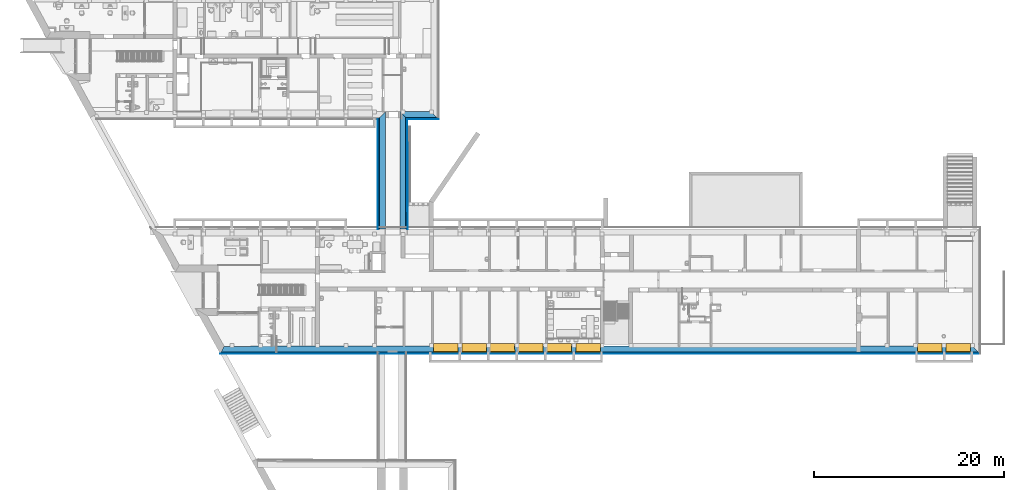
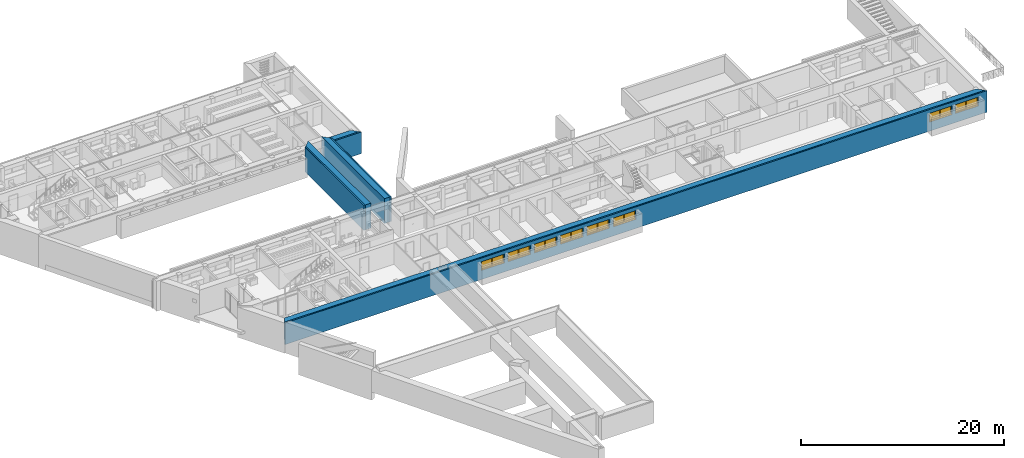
# One storey, part 29 of 127: 12 building element parts, 8 windows, 8 openings, 4 elements without a shape of their own.
"""IFC2X3 building model written with IfcOpenShell, lengths in millimetres."""

from ifc_helpers import new_model, entity, si_unit, converted_unit, derived_unit, money_unit, direction, frame, origin_with_axes, origin_2d_with_axis, place, context, subcontext, project, spatial, polyline, rectangle, outline, extrude, open_shell, faceted_brep, surface_model, source, transform, mapped, material, type_object, element, fill, aggregate, save


model = new_model("IFC2X3")

# Units and contexts
model_context = context("Model", 3, precision=1e-05, world=origin_with_axes(), true_north=direction((0.0, 1.0)))
body_context = subcontext(model_context, "Body", "Model", "MODEL_VIEW")
ifc_project = project(units=[si_unit("LENGTHUNIT", "METRE", prefix="MILLI"), si_unit("AREAUNIT", "SQUARE_METRE"), si_unit("VOLUMEUNIT", "CUBIC_METRE"), converted_unit("PLANEANGLEUNIT", "DEGREE", entity("IfcPlaneAngleMeasure", 0.0174532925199), si_unit("PLANEANGLEUNIT", "RADIAN"), dimensions=[0, 0, 0, 0, 0, 0, 0]), si_unit("SOLIDANGLEUNIT", "STERADIAN"), money_unit("EUR"), converted_unit("TIMEUNIT", "Year", entity("IfcTimeMeasure", 31556926.0), si_unit("TIMEUNIT", "SECOND"), dimensions=[0, 0, 1, 0, 0, 0, 0]), si_unit("MASSUNIT", "GRAM", prefix="KILO"), si_unit("THERMODYNAMICTEMPERATUREUNIT", "DEGREE_CELSIUS"), si_unit("LUMINOUSINTENSITYUNIT", "LUMEN"), si_unit("ENERGYUNIT", "JOULE", prefix="MEGA"), derived_unit("THERMALCONDUCTANCEUNIT", [(si_unit("POWERUNIT", "WATT"), 1), (si_unit("LENGTHUNIT", "METRE"), -1), (si_unit("THERMODYNAMICTEMPERATUREUNIT", "KELVIN"), -1)]), derived_unit("SPECIFICHEATCAPACITYUNIT", [(si_unit("ENERGYUNIT", "JOULE"), 1), (si_unit("MASSUNIT", "GRAM", prefix="KILO"), -1), (si_unit("THERMODYNAMICTEMPERATUREUNIT", "KELVIN"), -1)]), derived_unit("MASSDENSITYUNIT", [(si_unit("MASSUNIT", "GRAM", prefix="KILO"), 1), (si_unit("VOLUMEUNIT", "CUBIC_METRE"), -1)])], contexts=[model_context])

# Site, building, storey
site_placement = place(None, origin_with_axes())
site = spatial("IfcSite", under=ifc_project, at=site_placement, Name="Site", CompositionType="ELEMENT")
building_placement = place(site_placement, origin_with_axes())
building = spatial("IfcBuilding", under=site, at=building_placement, Name="Building", CompositionType="ELEMENT")
storey_placement = place(building_placement, origin_with_axes())
storey = spatial("IfcBuildingStorey", under=building, at=storey_placement, Name="1 KORRUS", CompositionType="ELEMENT", Elevation=0.0)

# Window
window_style = type_object("IfcWindowStyle", Name="A1   2\xa0580×1\xa0050", ConstructionType="NOTDEFINED", OperationType="DOUBLE_PANEL_VERTICAL", ParameterTakesPrecedence=False, Sizeable=False)
shared_shape = source(origin_with_axes(), body_context, "Body", "SurfaceModel", [
    faceted_brep([(1290.0, 0.0, 5.0), (1290.0, 180.0, 5.0), (1290.0, 180.0, 30.0), (1290.0, 0.0, 30.0), (-1290.0, 0.0, 5.0), (-1290.0, 180.0, 5.0), (-1290.0, 180.0, 30.0), (-1290.0, 0.0, 30.0)], [[[0, 1, 2, 3]], [[0, 4, 5, 1]], [[1, 5, 6, 2]], [[3, 2, 6, 7]], [[4, 0, 3, 7]], [[5, 4, 7, 6]]]),
    faceted_brep([(1290.0, 0.0, 0.0), (1290.0, 180.0, 0.0), (1290.0, 180.0, 5.0), (1290.0, 0.0, 5.0), (-1290.0, 0.0, 0.0), (-1290.0, 180.0, 0.0), (-1290.0, 180.0, 5.0), (-1290.0, 0.0, 5.0)], [[[0, 1, 2, 3]], [[0, 4, 5, 1]], [[1, 5, 6, 2]], [[3, 2, 6, 7]], [[4, 0, 3, 7]], [[5, 4, 7, 6]]]),
    faceted_brep([(-1290.0, -70.0, 0.0), (-1290.0, -620.0, 0.0), (-1290.0, -620.0, 30.0), (-1290.0, -70.0, 30.0), (1290.0, -70.0, 0.0), (1290.0, -620.0, 0.0), (1290.0, -920.0, 0.0), (-1290.0, -920.0, 0.0), (-1290.0, -920.0, 30.0), (1290.0, -920.0, 30.0), (1290.0, -620.0, 30.0), (1290.0, -70.0, 30.0)], [[[0, 1, 2, 3]], [[0, 4, 5, 6, 7, 1]], [[1, 7, 8, 2]], [[3, 2, 8, 9, 10, 11]], [[4, 0, 3, 11]], [[5, 4, 11, 10]], [[6, 5, 10, 9]], [[7, 6, 9, 8]]]),
    faceted_brep([(1265.0, 0.0, 1000.0), (1265.0, -25.0, 1000.0), (1240.0, -25.0, 1000.0), (1240.0, -70.0, 1000.0), (1290.0, -70.0, 1000.0), (1290.0, 0.0, 1000.0), (1265.0, 0.0, 50.0), (1265.0, -25.0, 50.0), (1240.0, -25.0, 50.0), (1240.0, -70.0, 50.0), (1290.0, -70.0, 50.0), (1290.0, 0.0, 50.0)], [[[0, 1, 2, 3, 4, 5]], [[1, 0, 6, 7]], [[8, 2, 1, 7]], [[2, 8, 9, 3]], [[4, 3, 9, 10]], [[5, 4, 10, 11]], [[6, 0, 5, 11]], [[7, 6, 11, 10, 9, 8]]]),
    faceted_brep([(25.0, -25.0, 1000.0), (0.0, -25.0, 1000.0), (0.0, 0.0, 1000.0), (-75.0, 0.0, 1000.0), (-75.0, -70.0, 1000.0), (25.0, -70.0, 1000.0), (25.0, -25.0, 50.0), (0.0, -25.0, 50.0), (0.0, 0.0, 50.0), (-75.0, 0.0, 50.0), (-75.0, -70.0, 50.0), (25.0, -70.0, 50.0)], [[[0, 1, 2, 3, 4, 5]], [[1, 0, 6, 7]], [[8, 2, 1, 7]], [[2, 8, 9, 3]], [[9, 10, 4, 3]], [[10, 11, 5, 4]], [[6, 0, 5, 11]], [[7, 6, 11, 10, 9, 8]]]),
    faceted_brep([(25.0, -25.0, 50.0), (0.0, -25.0, 50.0), (0.0, 0.0, 50.0), (-75.0, 0.0, 50.0), (-75.0, -70.0, 50.0), (25.0, -70.0, 50.0), (1240.0, -25.0, 50.0), (1265.0, -25.0, 50.0), (1265.0, -25.0, 25.0), (0.0, -25.0, 25.0), (0.0, 0.0, 25.0), (1265.0, 0.0, 25.0), (1265.0, 0.0, 50.0), (1290.0, 0.0, 50.0), (1290.0, 0.0, 0.0), (-1290.0, 0.0, 0.0), (-1290.0, 0.0, 50.0), (-1240.0, 0.0, 50.0), (-1240.0, -70.0, 50.0), (1290.0, -70.0, 50.0), (1240.0, -70.0, 50.0), (-1290.0, -70.0, 50.0), (-1290.0, -70.0, 0.0), (1290.0, -70.0, 0.0)], [[[0, 1, 2, 3, 4, 5]], [[1, 0, 6, 7, 8, 9]], [[10, 2, 1, 9]], [[11, 12, 13, 14, 15, 16, 17, 3, 2, 10]], [[17, 18, 4, 3]], [[19, 20, 5, 4, 18, 21, 22, 23]], [[6, 0, 5, 20]], [[7, 6, 20, 19, 13, 12]], [[7, 12, 11, 8]], [[11, 10, 9, 8]], [[13, 19, 23, 14]], [[14, 23, 22, 15]], [[15, 22, 21, 16]], [[16, 21, 18, 17]]]),
    faceted_brep([(1265.0, 0.0, 1000.0), (1265.0, 0.0, 1025.0), (0.0, 0.0, 1025.0), (0.0, 0.0, 1000.0), (-75.0, 0.0, 1000.0), (-1240.0, 0.0, 1000.0), (-1290.0, 0.0, 1000.0), (-1290.0, 0.0, 1050.0), (1290.0, 0.0, 1050.0), (1290.0, 0.0, 1000.0), (1265.0, -25.0, 1000.0), (1265.0, -25.0, 1025.0), (0.0, -25.0, 1025.0), (0.0, -25.0, 1000.0), (25.0, -25.0, 1000.0), (25.0, -70.0, 1000.0), (-75.0, -70.0, 1000.0), (-1240.0, -70.0, 1000.0), (-1290.0, -70.0, 1000.0), (-1290.0, -70.0, 1050.0), (1290.0, -70.0, 1050.0), (1290.0, -70.0, 1000.0), (1240.0, -70.0, 1000.0), (1240.0, -25.0, 1000.0)], [[[0, 1, 2, 3, 4, 5, 6, 7, 8, 9]], [[1, 0, 10, 11]], [[2, 1, 11, 12]], [[3, 2, 12, 13]], [[13, 14, 15, 16, 4, 3]], [[4, 16, 17, 5]], [[5, 17, 18, 6]], [[6, 18, 19, 7]], [[7, 19, 20, 8]], [[8, 20, 21, 9]], [[10, 0, 9, 21, 22, 23]], [[14, 13, 12, 11, 10, 23]], [[14, 23, 22, 15]], [[16, 15, 22, 21, 20, 19, 18, 17]]]),
    faceted_brep([(-1240.0, -70.0, 50.0), (-1290.0, -70.0, 50.0), (-1290.0, 0.0, 50.0), (-1240.0, 0.0, 50.0), (-1240.0, -70.0, 1000.0), (-1290.0, -70.0, 1000.0), (-1290.0, 0.0, 1000.0), (-1240.0, 0.0, 1000.0)], [[[0, 1, 2, 3]], [[0, 4, 5, 1]], [[1, 5, 6, 2]], [[3, 2, 6, 7]], [[4, 0, 3, 7]], [[5, 4, 7, 6]]]),
    faceted_brep([(1215.0, -25.0, 975.0), (1265.0, -25.0, 975.0), (1265.0, 25.0, 975.0), (1215.0, 25.0, 975.0), (1215.0, -25.0, 75.0), (1265.0, -25.0, 75.0), (1265.0, 25.0, 75.0), (1215.0, 25.0, 75.0)], [[[0, 1, 2, 3]], [[0, 4, 5, 1]], [[1, 5, 6, 2]], [[3, 2, 6, 7]], [[4, 0, 3, 7]], [[5, 4, 7, 6]]]),
    faceted_brep([(50.0, -25.0, 75.0), (0.0, -25.0, 75.0), (0.0, 25.0, 75.0), (50.0, 25.0, 75.0), (50.0, -25.0, 975.0), (0.0, -25.0, 975.0), (0.0, 25.0, 975.0), (50.0, 25.0, 975.0)], [[[0, 1, 2, 3]], [[0, 4, 5, 1]], [[1, 5, 6, 2]], [[3, 2, 6, 7]], [[4, 0, 3, 7]], [[5, 4, 7, 6]]]),
    faceted_brep([(0.0, -25.0, 25.0), (0.0, -25.0, 75.0), (0.0, 25.0, 75.0), (0.0, 25.0, 25.0), (1265.0, -25.0, 25.0), (1265.0, -25.0, 75.0), (1215.0, -25.0, 75.0), (50.0, -25.0, 75.0), (50.0, 25.0, 75.0), (1215.0, 25.0, 75.0), (1265.0, 25.0, 75.0), (1265.0, 25.0, 25.0)], [[[0, 1, 2, 3]], [[0, 4, 5, 6, 7, 1]], [[1, 7, 8, 2]], [[3, 2, 8, 9, 10, 11]], [[4, 0, 3, 11]], [[5, 4, 11, 10]], [[6, 5, 10, 9]], [[7, 6, 9, 8]]]),
    faceted_brep([(1265.0, -25.0, 1025.0), (1265.0, -25.0, 975.0), (1265.0, 25.0, 975.0), (1265.0, 25.0, 1025.0), (0.0, -25.0, 1025.0), (0.0, -25.0, 975.0), (50.0, -25.0, 975.0), (1215.0, -25.0, 975.0), (1215.0, 25.0, 975.0), (50.0, 25.0, 975.0), (0.0, 25.0, 975.0), (0.0, 25.0, 1025.0)], [[[0, 1, 2, 3]], [[0, 4, 5, 6, 7, 1]], [[1, 7, 8, 2]], [[3, 2, 8, 9, 10, 11]], [[4, 0, 3, 11]], [[5, 4, 11, 10]], [[6, 5, 10, 9]], [[7, 6, 9, 8]]]),
    surface_model("IfcShellBasedSurfaceModel", [(1215.0, -10.0, 75.0), (1215.0, -10.0, 975.0), (50.0, -10.0, 975.0), (50.0, -10.0, 75.0)], [open_shell([[[0, 1, 2, 3]]])]),
    surface_model("IfcShellBasedSurfaceModel", [(1215.0, 10.0, 75.0), (50.0, 10.0, 75.0), (50.0, 10.0, 975.0), (1215.0, 10.0, 975.0)], [open_shell([[[0, 1, 2, 3]]])]),
    surface_model("IfcShellBasedSurfaceModel", [(-75.0, -35.0, 50.0), (-75.0, -35.0, 1000.0), (-1240.0, -35.0, 1000.0), (-1240.0, -35.0, 50.0)], [open_shell([[[0, 1, 2, 3]]])]),
    surface_model("IfcShellBasedSurfaceModel", [(-75.0, -15.0, 50.0), (-1240.0, -15.0, 50.0), (-1240.0, -15.0, 1000.0), (-75.0, -15.0, 1000.0)], [open_shell([[[0, 1, 2, 3]]])]),
])
wall_4_placement = place(storey_placement, frame((100568.726425, 34262.5330189, 0.0), z_axis=(0.0, 0.0, 1.0), x_axis=(-0.999999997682, -6.80935166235e-05, 0.0)))
opening_1_placement = place(wall_4_placement, frame((56120.6055629, 0.0, 1100.0), z_axis=(0.0, 0.0, 1.0), x_axis=(1.0, 0.0, 0.0)))
window_1_placement = place(opening_1_placement, frame((-1290.0, -9.09494701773e-10, 0.0), z_axis=(0.0, 0.0, 1.0), x_axis=(1.0, 0.0, 0.0)))
window_1 = element("IfcWindow", 1, at=window_1_placement, inside=storey, type_object=window_style, Name="välisaken * Double Window 22", OverallHeight=1050.0, OverallWidth=2580.0, context=body_context, shape_type="MappedRepresentation", body=[
    mapped(shared_shape, transform((1290.0, -9.9999999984, 0.0))),
])

opening_2_placement = place(wall_4_placement, frame((53124.0596485, 0.0, 1100.0), z_axis=(0.0, 0.0, 1.0), x_axis=(1.0, 0.0, 0.0)))
window_2_placement = place(opening_2_placement, frame((-1290.0, 0.0, 0.0), z_axis=(0.0, 0.0, 1.0), x_axis=(1.0, 0.0, 0.0)))
window_2 = element("IfcWindow", 2, at=window_2_placement, inside=storey, type_object=window_style, Name="välisaken * Double Window 22", OverallHeight=1050.0, OverallWidth=2580.0, context=body_context, shape_type="MappedRepresentation", body=[
    mapped(shared_shape, transform((1290.0, -10.0000000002, 0.0))),
])

opening_3_placement = place(wall_4_placement, frame((50126.8683732, -9.09494701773e-10, 1100.0), z_axis=(0.0, 0.0, 1.0), x_axis=(1.0, 0.0, 0.0)))
window_3_placement = place(opening_3_placement, frame((-1290.0, 9.09494701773e-10, 0.0), z_axis=(0.0, 0.0, 1.0), x_axis=(1.0, 0.0, 0.0)))
window_3 = element("IfcWindow", 3, at=window_3_placement, inside=storey, type_object=window_style, Name="välisaken * Double Window 22", OverallHeight=1050.0, OverallWidth=2580.0, context=body_context, shape_type="MappedRepresentation", body=[
    mapped(shared_shape, transform((1290.0, -9.99999999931, 0.0))),
])

opening_4_placement = place(wall_4_placement, frame((47126.7768438, 0.0, 1100.0), z_axis=(0.0, 0.0, 1.0), x_axis=(1.0, 0.0, 0.0)))
window_4_placement = place(opening_4_placement, frame((-1290.0, 0.0, 0.0), z_axis=(0.0, 0.0, 1.0), x_axis=(1.0, 0.0, 0.0)))
window_4 = element("IfcWindow", 4, at=window_4_placement, inside=storey, type_object=window_style, Name="välisaken * Double Window 22", OverallHeight=1050.0, OverallWidth=2580.0, context=body_context, shape_type="MappedRepresentation", body=[
    mapped(shared_shape, transform((1290.0, -10.0000000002, 0.0))),
])

opening_5_placement = place(wall_4_placement, frame((44125.776248, -9.09494701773e-10, 1100.0), z_axis=(0.0, 0.0, 1.0), x_axis=(1.0, 0.0, 0.0)))
window_5_placement = place(opening_5_placement, frame((-1290.0, 9.09494701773e-10, 0.0), z_axis=(0.0, 0.0, 1.0), x_axis=(1.0, 0.0, 0.0)))
window_5 = element("IfcWindow", 5, at=window_5_placement, inside=storey, type_object=window_style, Name="välisaken * Double Window 22", OverallHeight=1050.0, OverallWidth=2580.0, context=body_context, shape_type="MappedRepresentation", body=[
    mapped(shared_shape, transform((1290.0, -9.99999999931, 0.0))),
])

opening_6_placement = place(wall_4_placement, frame((41122.6713256, 0.0, 1100.0), z_axis=(0.0, 0.0, 1.0), x_axis=(1.0, 0.0, 0.0)))
window_6_placement = place(opening_6_placement, frame((-1290.0, 0.0, 0.0), z_axis=(0.0, 0.0, 1.0), x_axis=(1.0, 0.0, 0.0)))
window_6 = element("IfcWindow", 6, at=window_6_placement, inside=storey, type_object=window_style, Name="välisaken * Double Window 22", OverallHeight=1050.0, OverallWidth=2580.0, context=body_context, shape_type="MappedRepresentation", body=[
    mapped(shared_shape, transform((1290.0, -10.0000000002, 0.0))),
])

opening_7_placement = place(wall_4_placement, frame((2120.83197881, 0.0, 1100.0), z_axis=(0.0, 0.0, 1.0), x_axis=(1.0, 0.0, 0.0)))
window_7_placement = place(opening_7_placement, frame((-1290.0, 0.0, 0.0), z_axis=(0.0, 0.0, 1.0), x_axis=(1.0, 0.0, 0.0)))
window_7 = element("IfcWindow", 7, at=window_7_placement, inside=storey, type_object=window_style, Name="välisaken * Double Window 22", OverallHeight=1050.0, OverallWidth=2580.0, context=body_context, shape_type="MappedRepresentation", body=[
    mapped(shared_shape, transform((1290.0, -10.0000000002, 0.0))),
])

opening_8_placement = place(wall_4_placement, frame((5121.54046402, -9.09494701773e-10, 1100.0), z_axis=(0.0, 0.0, 1.0), x_axis=(1.0, 0.0, 0.0)))
window_8_placement = place(opening_8_placement, frame((-1290.0, 9.09494701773e-10, 0.0), z_axis=(0.0, 0.0, 1.0), x_axis=(1.0, 0.0, 0.0)))
window_8 = element("IfcWindow", 8, at=window_8_placement, inside=storey, type_object=window_style, Name="välisaken * Double Window 22", OverallHeight=1050.0, OverallWidth=2580.0, context=body_context, shape_type="MappedRepresentation", body=[
    mapped(shared_shape, transform((1290.0, -10.0000000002, 0.0))),
])

# Wall, building element parts
wall_type = type_object("IfcWallType", Name="VS-3", PredefinedType="NOTDEFINED")
wall_1_placement = place(storey_placement, frame((40281.3579697, 47214.3527714, 0.0), z_axis=(0.0, 0.0, 1.0), x_axis=(-0.00135021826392, 0.999999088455, 0.0)))
wall_1 = element("IfcWall", 9, at=wall_1_placement, inside=storey, type_object=wall_type, Name="VS3 krohv")
ifc_material_1 = material(Name="Kivi - Ol.Olev Konstruktsioon")
building_element_part_1_placement = place(wall_1_placement, origin_with_axes())
building_element_part_1 = element("IfcBuildingElementPart", 10, at=building_element_part_1_placement, material=ifc_material_1, Name="Kivi - Ol.Olev Konstruktsioon", context=body_context, shape_type="SweptSolid", body=[
    extrude(outline(polyline([(0.0, 0.0), (11735.1383151, 0.0), (12365.9895277, 630.0), (0.0, 630.0), (0.0, 0.0)])), origin_with_axes(), (0.0, 0.0, 1.0), 3000.0),
])
ifc_material_2 = material(Name="Soojustus - Plastik Kõva")
building_element_part_2_placement = place(wall_1_placement, origin_with_axes())
building_element_part_2 = element("IfcBuildingElementPart", 11, at=building_element_part_2_placement, material=ifc_material_2, Name="Soojustus - Plastik Kõva", context=body_context, shape_type="SweptSolid", body=[
    extrude(outline(polyline([(0.0, -160.0), (11574.9221342, -160.0), (11735.1383151, 0.0), (0.0, 0.0), (0.0, -160.0)])), origin_with_axes(), (0.0, 0.0, 1.0), 3000.0),
])
ifc_material_3 = material(Name="Krohv - Õhekrohv")
building_element_part_3_placement = place(wall_1_placement, origin_with_axes())
building_element_part_3 = element("IfcBuildingElementPart", 12, at=building_element_part_3_placement, material=ifc_material_3, Name="Krohv - Õhekrohv", context=body_context, shape_type="SweptSolid", body=[
    extrude(outline(polyline([(9.09494701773e-10, -170.0), (11564.9086229, -170.0), (11574.9221342, -160.0), (0.0, -160.0), (9.09494701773e-10, -170.0)])), origin_with_axes(), (0.0, 0.0, 1.0), 3000.0),
])
aggregate(wall_1, [building_element_part_1, building_element_part_2, building_element_part_3])

wall_2_placement = place(storey_placement, frame((37481.9281848, 47213.5134354, 0.0), z_axis=(0.0, 0.0, 1.0), x_axis=(0.000363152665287, 0.99999993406, 0.0)))
wall_2 = element("IfcWall", 13, at=wall_2_placement, inside=storey, type_object=wall_type, Name="VS3 krohv")
building_element_part_4_placement = place(wall_2_placement, origin_with_axes())
building_element_part_4 = element("IfcBuildingElementPart", 14, at=building_element_part_4_placement, material=ifc_material_1, Name="Kivi - Ol.Olev Konstruktsioon", context=body_context, shape_type="SweptSolid", body=[
    extrude(outline(polyline([(0.0, -630.0), (12375.8474396, -630.0), (11745.546749, 0.0), (9.09494701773e-10, 0.0), (0.0, -630.0)])), origin_with_axes(), (0.0, 0.0, 1.0), 3000.0),
])
building_element_part_5_placement = place(wall_2_placement, origin_with_axes())
building_element_part_5 = element("IfcBuildingElementPart", 15, at=building_element_part_5_placement, material=ifc_material_2, Name="Soojustus - Plastik Kõva", context=body_context, shape_type="SweptSolid", body=[
    extrude(outline(polyline([(9.09494701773e-10, 0.0), (11745.546749, 0.0), (11585.4703832, 160.0), (0.0, 160.0), (9.09494701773e-10, 0.0)])), origin_with_axes(), (0.0, 0.0, 1.0), 3000.0),
])
building_element_part_6_placement = place(wall_2_placement, origin_with_axes())
building_element_part_6 = element("IfcBuildingElementPart", 16, at=building_element_part_6_placement, material=ifc_material_3, Name="Krohv - Õhekrohv", context=body_context, shape_type="SweptSolid", body=[
    extrude(outline(polyline([(0.0, 160.0), (11585.4703832, 160.0), (11575.4656103, 170.0), (9.09494701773e-10, 170.0), (0.0, 160.0)])), origin_with_axes(), (0.0, 0.0, 1.0), 3000.0),
])
aggregate(wall_2, [building_element_part_4, building_element_part_5, building_element_part_6])

wall_3_placement = place(storey_placement, frame((40265.5129716, 58949.4803894, 0.0), z_axis=(0.0, 0.0, 1.0), x_axis=(1.0, 0.0, 0.0)))
wall_3 = element("IfcWall", 17, at=wall_3_placement, inside=storey, type_object=wall_type, Name="VS3 krohv")
building_element_part_7_placement = place(wall_3_placement, origin_with_axes())
building_element_part_7 = element("IfcBuildingElementPart", 18, at=building_element_part_7_placement, material=ifc_material_1, Name="Kivi - Ol.Olev Konstruktsioon", context=body_context, shape_type="SweptSolid", body=[
    extrude(outline(polyline([(0.0, 0.0), (3302.24517346, 0.0), (2672.24322079, 630.0), (-630.851212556, 630.0), (0.0, 0.0)])), origin_with_axes(), (0.0, 0.0, 1.0), 2600.0),
])
building_element_part_8_placement = place(wall_3_placement, origin_with_axes())
building_element_part_8 = element("IfcBuildingElementPart", 19, at=building_element_part_8_placement, material=ifc_material_2, Name="Soojustus - Plastik Kõva", context=body_context, shape_type="SweptSolid", body=[
    extrude(outline(polyline([(160.216180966, -160.0), (3462.24566938, -160.0), (3302.24517346, 0.0), (0.0, 0.0), (160.216180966, -160.0)])), origin_with_axes(), (0.0, 0.0, 1.0), 2600.0),
])
building_element_part_9_placement = place(wall_3_placement, origin_with_axes())
building_element_part_9 = element("IfcBuildingElementPart", 20, at=building_element_part_9_placement, material=ifc_material_3, Name="Krohv - Õhekrohv", context=body_context, shape_type="SweptSolid", body=[
    extrude(outline(polyline([(170.229692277, -170.0), (3472.24570038, -170.0), (3462.24566938, -160.0), (160.216180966, -160.0), (170.229692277, -170.0)])), origin_with_axes(), (0.0, 0.0, 1.0), 2600.0),
])
aggregate(wall_3, [building_element_part_7, building_element_part_8, building_element_part_9])

# Wall, opening
wall_4 = element("IfcWall", 21, at=wall_4_placement, inside=storey, type_object=wall_type, Name="VS3 krohv")
opening_1 = element("IfcOpeningElement", 22, at=opening_1_placement, cuts=wall_4, Name="välisaken * Double Window 22", context=body_context, shape_type="SweptSolid", body=[
    extrude(rectangle(XDim=2580.0, YDim=1050.0, at=origin_2d_with_axis()), frame((0.0, -9.99999999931, 525.0), z_axis=(0.0, -1.0, 0.0), x_axis=(-1.0, 0.0, 0.0)), (0.0, 0.0, 1.0), 1420.0),
    extrude(rectangle(XDim=2580.0, YDim=1050.0, at=origin_2d_with_axis()), frame((0.0, -9.99999999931, 525.0), z_axis=(0.0, 1.0, 0.0), x_axis=(-1.0, 0.0, 0.0)), (0.0, 0.0, 1.0), 980.0),
])

fill(opening_1, window_1)

# Opening
opening_2 = element("IfcOpeningElement", 23, at=opening_2_placement, cuts=wall_4, Name="välisaken * Double Window 22", context=body_context, shape_type="SweptSolid", body=[
    extrude(rectangle(XDim=2580.0, YDim=1050.0, at=origin_2d_with_axis()), frame((-1.13686837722e-10, -10.0000000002, 525.0), z_axis=(0.0, -1.0, 0.0), x_axis=(-1.0, 0.0, 0.0)), (0.0, 0.0, 1.0), 1420.0),
    extrude(rectangle(XDim=2580.0, YDim=1050.0, at=origin_2d_with_axis()), frame((-1.13686837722e-10, -10.0000000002, 525.0), z_axis=(0.0, 1.0, 0.0), x_axis=(-1.0, 0.0, 0.0)), (0.0, 0.0, 1.0), 980.0),
])

fill(opening_2, window_2)

opening_3 = element("IfcOpeningElement", 24, at=opening_3_placement, cuts=wall_4, Name="välisaken * Double Window 22", context=body_context, shape_type="SweptSolid", body=[
    extrude(rectangle(XDim=2580.0, YDim=1050.0, at=origin_2d_with_axis()), frame((1.13686837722e-10, -9.99999999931, 525.0), z_axis=(0.0, -1.0, 0.0), x_axis=(-1.0, 0.0, 0.0)), (0.0, 0.0, 1.0), 1420.0),
    extrude(rectangle(XDim=2580.0, YDim=1050.0, at=origin_2d_with_axis()), frame((1.13686837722e-10, -9.99999999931, 525.0), z_axis=(0.0, 1.0, 0.0), x_axis=(-1.0, 0.0, 0.0)), (0.0, 0.0, 1.0), 980.0),
])

fill(opening_3, window_3)

opening_4 = element("IfcOpeningElement", 25, at=opening_4_placement, cuts=wall_4, Name="välisaken * Double Window 22", context=body_context, shape_type="SweptSolid", body=[
    extrude(rectangle(XDim=2580.0, YDim=1050.0, at=origin_2d_with_axis()), frame((0.0, -10.0000000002, 525.0), z_axis=(0.0, -1.0, 0.0), x_axis=(-1.0, 0.0, 0.0)), (0.0, 0.0, 1.0), 1420.0),
    extrude(rectangle(XDim=2580.0, YDim=1050.0, at=origin_2d_with_axis()), frame((0.0, -10.0000000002, 525.0), z_axis=(0.0, 1.0, 0.0), x_axis=(-1.0, 0.0, 0.0)), (0.0, 0.0, 1.0), 980.0),
])

fill(opening_4, window_4)

opening_5 = element("IfcOpeningElement", 26, at=opening_5_placement, cuts=wall_4, Name="välisaken * Double Window 22", context=body_context, shape_type="SweptSolid", body=[
    extrude(rectangle(XDim=2580.0, YDim=1050.0, at=origin_2d_with_axis()), frame((0.0, -9.99999999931, 525.0), z_axis=(0.0, -1.0, 0.0), x_axis=(-1.0, 0.0, 0.0)), (0.0, 0.0, 1.0), 1420.0),
    extrude(rectangle(XDim=2580.0, YDim=1050.0, at=origin_2d_with_axis()), frame((-1.13686837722e-10, -9.99999999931, 525.0), z_axis=(0.0, 1.0, 0.0), x_axis=(-1.0, 0.0, 0.0)), (0.0, 0.0, 1.0), 980.0),
])

fill(opening_5, window_5)

opening_6 = element("IfcOpeningElement", 27, at=opening_6_placement, cuts=wall_4, Name="välisaken * Double Window 22", context=body_context, shape_type="SweptSolid", body=[
    extrude(rectangle(XDim=2580.0, YDim=1050.0, at=origin_2d_with_axis()), frame((0.0, -10.0000000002, 525.0), z_axis=(0.0, -1.0, 0.0), x_axis=(-1.0, 0.0, 0.0)), (0.0, 0.0, 1.0), 1420.0),
    extrude(rectangle(XDim=2580.0, YDim=1050.0, at=origin_2d_with_axis()), frame((0.0, -10.0000000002, 525.0), z_axis=(0.0, 1.0, 0.0), x_axis=(-1.0, 0.0, 0.0)), (0.0, 0.0, 1.0), 980.0),
])

fill(opening_6, window_6)

opening_7 = element("IfcOpeningElement", 28, at=opening_7_placement, cuts=wall_4, Name="välisaken * Double Window 22", context=body_context, shape_type="SweptSolid", body=[
    extrude(rectangle(XDim=2580.0, YDim=1050.0, at=origin_2d_with_axis()), frame((1.13686837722e-10, -10.0000000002, 525.0), z_axis=(0.0, -1.0, 0.0), x_axis=(-1.0, 0.0, 0.0)), (0.0, 0.0, 1.0), 1420.0),
    extrude(rectangle(XDim=2580.0, YDim=1050.0, at=origin_2d_with_axis()), frame((0.0, -10.0000000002, 525.0), z_axis=(0.0, 1.0, 0.0), x_axis=(-1.0, 0.0, 0.0)), (0.0, 0.0, 1.0), 980.0),
])

fill(opening_7, window_7)

opening_8 = element("IfcOpeningElement", 29, at=opening_8_placement, cuts=wall_4, Name="välisaken * Double Window 22", context=body_context, shape_type="SweptSolid", body=[
    extrude(rectangle(XDim=2580.0, YDim=1050.0, at=origin_2d_with_axis()), frame((1.13686837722e-10, -10.0000000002, 525.0), z_axis=(0.0, -1.0, 0.0), x_axis=(-1.0, 0.0, 0.0)), (0.0, 0.0, 1.0), 1420.0),
    extrude(rectangle(XDim=2580.0, YDim=1050.0, at=origin_2d_with_axis()), frame((1.13686837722e-10, -10.0000000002, 525.0), z_axis=(0.0, 1.0, 0.0), x_axis=(-1.0, 0.0, 0.0)), (0.0, 0.0, 1.0), 980.0),
])

fill(opening_8, window_8)

# Building element part
building_element_part_10_placement = place(wall_4_placement, origin_with_axes())
building_element_part_10 = element("IfcBuildingElementPart", 30, at=building_element_part_10_placement, material=ifc_material_1, Name="Kivi - Ol.Olev Konstruktsioon", context=body_context, shape_type="SweptSolid", body=[
    extrude(outline(polyline([(630.01080481, -630.0), (79435.2705519, -630.0), (79751.3212209, 0.0), (0.0, 0.0), (630.01080481, -630.0)])), origin_with_axes(), (0.0, 0.0, 1.0), 2600.0),
])

building_element_part_11_placement = place(wall_4_placement, origin_with_axes())
building_element_part_11 = element("IfcBuildingElementPart", 31, at=building_element_part_11_placement, material=ifc_material_2, Name="Soojustus - Plastik Kõva", context=body_context, shape_type="SweptSolid", body=[
    extrude(outline(polyline([(0.0, 0.0), (79751.3212209, 0.0), (79831.5880575, 160.0), (-160.002744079, 160.0), (0.0, 0.0)])), origin_with_axes(), (0.0, 0.0, 1.0), 2600.0),
])

building_element_part_12_placement = place(wall_4_placement, origin_with_axes())
building_element_part_12 = element("IfcBuildingElementPart", 32, at=building_element_part_12_placement, material=ifc_material_3, Name="Krohv - Õhekrohv", context=body_context, shape_type="SweptSolid", body=[
    extrude(outline(polyline([(-160.002744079, 160.0), (79831.5880575, 160.0), (79836.6047348, 170.0), (-170.002915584, 170.0), (-160.002744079, 160.0)])), origin_with_axes(), (0.0, 0.0, 1.0), 2600.0),
])

aggregate(wall_4, [building_element_part_10, building_element_part_11, building_element_part_12])

save(model, "model.ifc")
